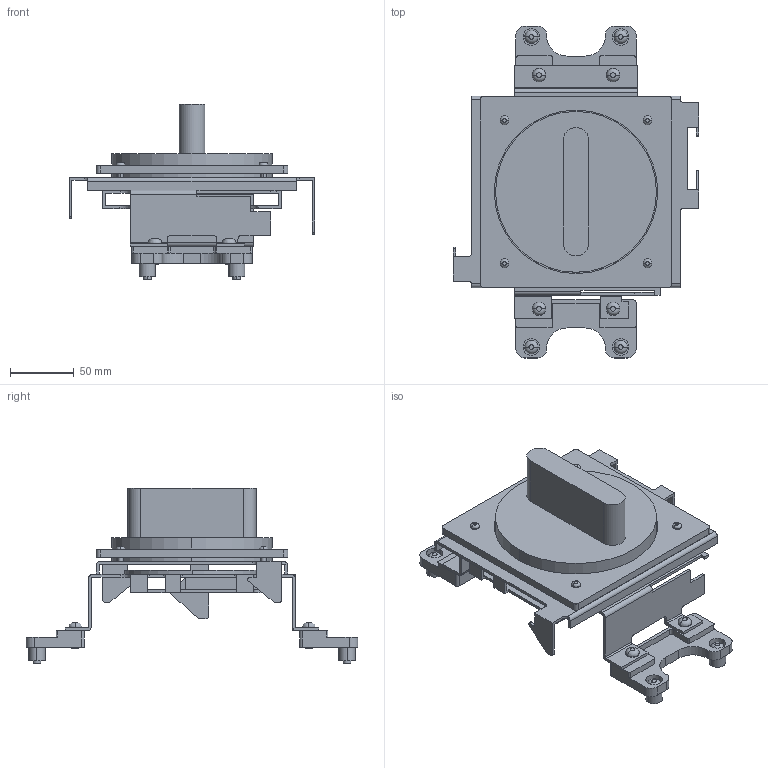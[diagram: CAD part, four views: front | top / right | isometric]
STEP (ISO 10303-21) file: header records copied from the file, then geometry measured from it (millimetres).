
FILE_DESCRIPTION( ( '' ), '1' );
FILE_NAME( 'E:/D&C電子外形図_3D/step/distribution/g-twin/breaker_accessory/handle/BW9N0JA.stp', '2012-10-19T07:47:14', ( '' ), ( '' ), ' ', ' ', ' ' );
FILE_SCHEMA( ( 'automotive_design' ) );
Length unit declared in the file: millimetre
Products named in the file (18): 1; 2; 3; 4; 5; 6; 7; 8; 9; 10; 11; 12; 13; 14; 15; 16; 17; 18
Bounding box: 192.6 x 260 x 137.71 mm (x, y, z)
Volume: 603671 mm3; surface area: 207830.2 mm2
Topology: 18 solids, 18 shells, 423 faces, 1111 edges, 744 vertices
Faces by surface type: cylinder 200, plane 199, torus 24
Entity records: 26429 total; most frequent: DIRECTION 2479, STYLED_ITEM 2296, PRESENTATION_STYLE_ASSIGNMENT 2296, CARTESIAN_POINT 2296, COLOUR_RGB 2296, ORIENTED_EDGE 2222, EDGE_CURVE 1111, CURVE_STYLE 1111
